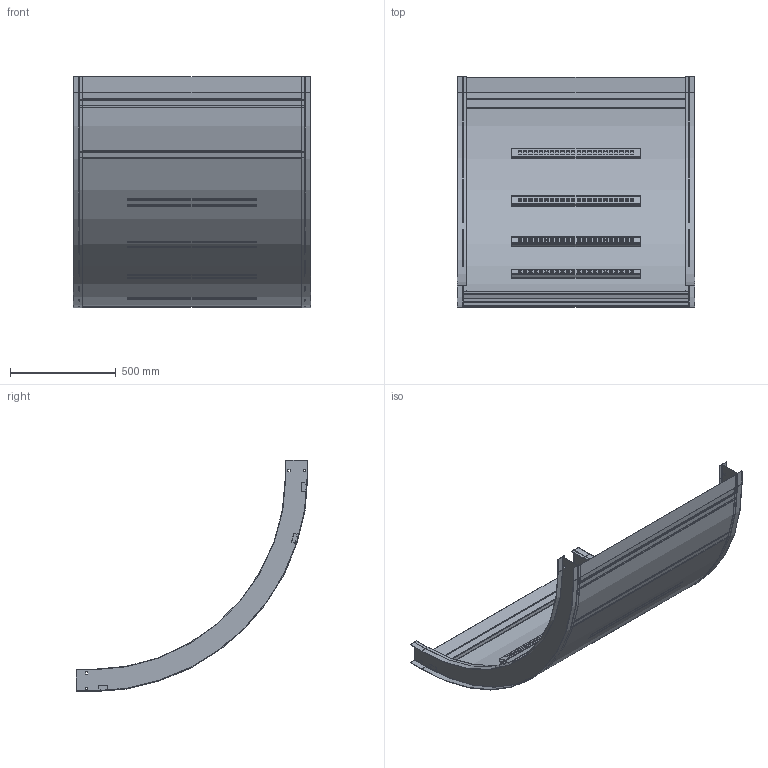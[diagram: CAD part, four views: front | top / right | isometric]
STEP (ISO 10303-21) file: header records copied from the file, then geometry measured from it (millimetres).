
FILE_DESCRIPTION((''),'2;1');
FILE_NAME('AHF442SVI9036_ASM','2010-01-28T',('erouzier'),(''),'PRO/ENGINEER BY PARAMETRIC TECHNOLOGY CORPORATION, 2008510','PRO/ENGINEER BY PARAMETRIC TECHNOLOGY CORPORATION, 2008510','');
FILE_SCHEMA(('CONFIG_CONTROL_DESIGN'));
Length unit declared in the file: inch
Products named in the file (5): CDS001658_4_90_36; CDS002159L42; CDS002159L24-P; CDS014129_90_36_42; AHF442SVI9036_ASM
Assembly tree (10 placements, depth 2):
  AHF442SVI9036_ASM
    CDS001658_4_90_36  x2
    CDS002159L42  x3
    CDS002159L24-P  x4
    CDS014129_90_36_42
Bounding box: 1127 x 1096.64 x 1096.64 mm (x, y, z)
Volume: 3896901.5 mm3; surface area: 6301529.5 mm2
Topology: 10 solids, 10 shells, 1012 faces, 2968 edges, 1976 vertices
Faces by surface type: plane 569, cylinder 443
Entity records: 9911 total; most frequent: CARTESIAN_POINT 1711, DIRECTION 1694, ORIENTED_EDGE 1688, EDGE_CURVE 844, VECTOR 608, LINE 608, VERTEX_POINT 560, AXIS2_PLACEMENT_3D 543
